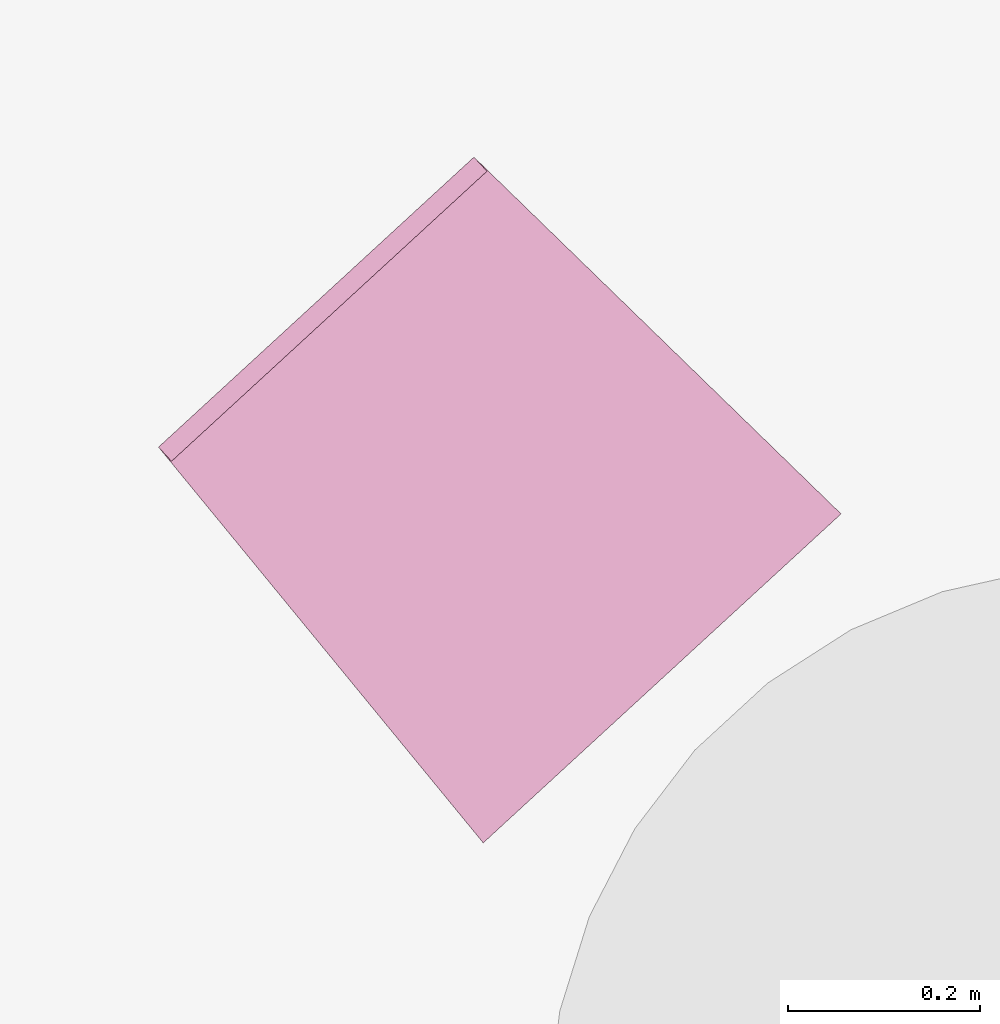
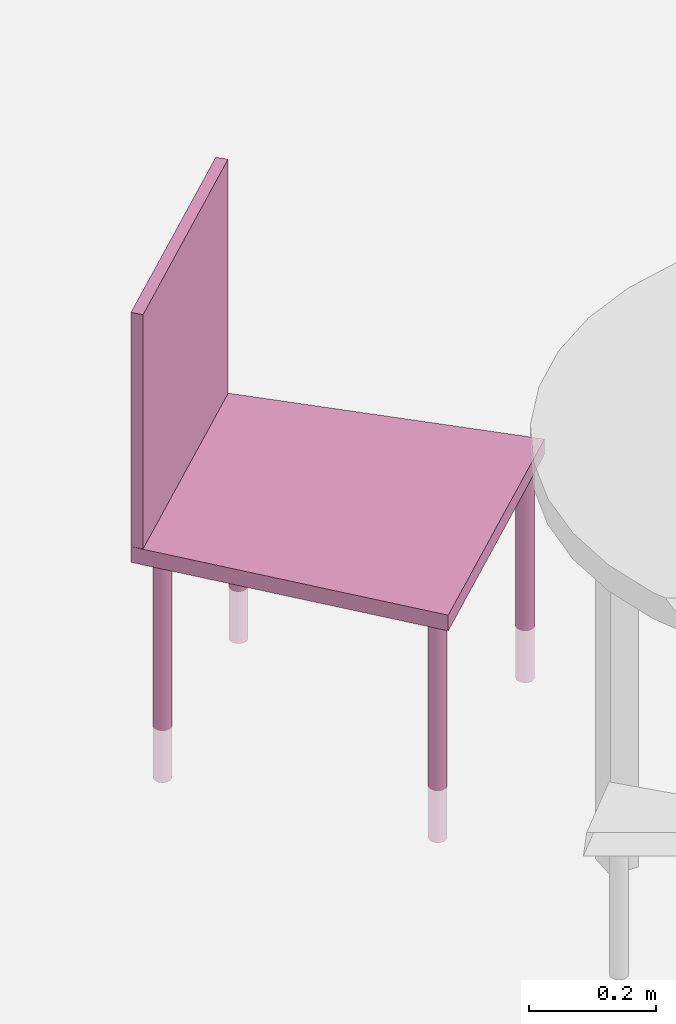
"""IFC4 building model written with IfcOpenShell, lengths in metres."""

from ifc_helpers import new_model, entity, si_unit, converted_unit, derived_unit, frame, origin, place, context, subcontext, project, spatial, faceted_brep, element, save


model = new_model("IFC4")

# Units and contexts
model_context = context("Model", 3, precision=1e-05, world=origin())
body_context = subcontext(model_context, "Body", "Model", "MODEL_VIEW")
ifc_project = project(units=[si_unit("LENGTHUNIT", "METRE"), si_unit("AREAUNIT", "SQUARE_METRE"), si_unit("VOLUMEUNIT", "CUBIC_METRE"), si_unit("MASSUNIT", "GRAM", prefix="KILO"), converted_unit("PLANEANGLEUNIT", "DEGREE", entity("IfcPlaneAngleMeasure", 0.0174532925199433), si_unit("PLANEANGLEUNIT", "RADIAN"), dimensions=[0, 0, 0, 0, 0, 0, 0]), derived_unit("THERMALTRANSMITTANCEUNIT", [(si_unit("POWERUNIT", "WATT"), 1), (si_unit("THERMODYNAMICTEMPERATUREUNIT", "KELVIN"), -1), (si_unit("LENGTHUNIT", "METRE"), -2)]), derived_unit("VOLUMETRICFLOWRATEUNIT", [(si_unit("LENGTHUNIT", "METRE"), 3), (converted_unit("TIMEUNIT", "hour", entity("IfcTimeMeasure", 3600.0), si_unit("TIMEUNIT", "SECOND"), dimensions=[0, 0, 1, 0, 0, 0, 0]), -1), (si_unit("LENGTHUNIT", "METRE"), -1)])], contexts=[model_context])

# Building, storeys
building_placement = place(None, origin())
building = spatial("IfcBuilding", under=ifc_project, at=building_placement, Name="HABITATGE PLURIFAMILIAR", CompositionType="ELEMENT")
storey_1_placement = place(building_placement, frame((0.0, 0.0, 12.27)))
storey_1 = spatial("IfcBuildingStorey", under=building, at=storey_1_placement, Name="PLANTA TERCERA", CompositionType="ELEMENT", Elevation=12.27)
storey_2_placement = place(storey_1_placement, frame((0.0, 0.0, 9.26)))
storey_2 = spatial("IfcBuildingStorey", under=storey_1, at=storey_2_placement, Name="NOU", CompositionType="PARTIAL")

# Furniture
furniture_placement = place(storey_2_placement, frame((423.593777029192, 24.244838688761, -9.36074913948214)))
element("IfcFurniture", 1, at=furniture_placement, inside=storey_2, Name="Cadira confident_P3", context=body_context, shape_type="Brep", body=[
    faceted_brep([(0.328242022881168, 0.024755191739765, 0.0), (0.33016572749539, 0.0230003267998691, 0.0), (0.332364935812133, 0.021606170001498, 0.0), (0.334772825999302, 0.0206150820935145, 0.0), (0.337316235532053, 0.0200571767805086, 0.0), (0.339917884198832, 0.0199494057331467, 0.0), (0.342498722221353, 0.0202950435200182, 0.0), (0.344980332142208, 0.0210835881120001, 0.0), (0.34728731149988, 0.0222910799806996, 0.0), (0.349349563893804, 0.0238808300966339, 0.0), (0.351104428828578, 0.0258045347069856, 0.0), (0.352498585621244, 0.0280037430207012, 0.0), (0.353489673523, 0.0304116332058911, 0.0), (0.354047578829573, 0.032955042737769, 0.0), (0.354155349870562, 0.0355566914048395, 0.0), (0.353809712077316, 0.0381375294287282, 0.0), (0.353021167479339, 0.0406191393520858, 0.0), (0.351813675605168, 0.0429261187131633, 0.0), (0.350223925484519, 0.0449883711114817, 0.0), (0.34830022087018, 0.0467432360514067, 0.0), (0.346101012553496, 0.0481373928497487, 0.0), (0.343693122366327, 0.0491284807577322, 0.0), (0.341149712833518, 0.0496863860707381, 0.0), (0.338548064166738, 0.0497941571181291, 0.0), (0.335967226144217, 0.0494485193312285, 0.0), (0.333485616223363, 0.0486599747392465, 0.0), (0.331178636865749, 0.0474524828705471, 0.0), (0.329116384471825, 0.0458627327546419, 0.0), (0.327361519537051, 0.0439390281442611, 0.0), (0.325967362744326, 0.0417398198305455, 0.0), (0.324976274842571, 0.0393319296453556, 0.0), (0.324418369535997, 0.0367885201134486, 0.0), (0.324310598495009, 0.0341868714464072, 0.0), (0.324656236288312, 0.0316060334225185, 0.0), (0.32544478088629, 0.0291244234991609, 0.0), (0.326652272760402, 0.0268174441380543, 0.0), (0.328242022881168, 0.024755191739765, 0.448281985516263), (0.326652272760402, 0.0268174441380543, 0.448281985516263), (0.32544478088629, 0.0291244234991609, 0.448281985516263), (0.324656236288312, 0.0316060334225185, 0.448281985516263), (0.324310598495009, 0.0341868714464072, 0.448281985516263), (0.324418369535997, 0.0367885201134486, 0.448281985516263), (0.324976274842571, 0.0393319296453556, 0.448281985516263), (0.325967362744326, 0.0417398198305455, 0.448281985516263), (0.327361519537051, 0.0439390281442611, 0.448281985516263), (0.329116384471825, 0.0458627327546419, 0.448281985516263), (0.331178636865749, 0.0474524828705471, 0.448281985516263), (0.333485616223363, 0.0486599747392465, 0.448281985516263), (0.335967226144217, 0.0494485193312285, 0.448281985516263), (0.338548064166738, 0.0497941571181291, 0.448281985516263), (0.341149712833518, 0.0496863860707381, 0.448281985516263), (0.343693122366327, 0.0491284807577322, 0.448281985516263), (0.346101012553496, 0.0481373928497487, 0.448281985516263), (0.34830022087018, 0.0467432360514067, 0.448281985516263), (0.350223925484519, 0.0449883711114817, 0.448281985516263), (0.351813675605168, 0.0429261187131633, 0.448281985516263), (0.353021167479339, 0.0406191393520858, 0.448281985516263), (0.353809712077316, 0.0381375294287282, 0.448281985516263), (0.354155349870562, 0.0355566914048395, 0.448281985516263), (0.354047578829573, 0.032955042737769, 0.448281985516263), (0.353489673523, 0.0304116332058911, 0.448281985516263), (0.352498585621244, 0.0280037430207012, 0.448281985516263), (0.351104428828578, 0.0258045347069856, 0.448281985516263), (0.349349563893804, 0.0238808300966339, 0.448281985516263), (0.34728731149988, 0.0222910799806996, 0.448281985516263), (0.344980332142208, 0.0210835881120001, 0.448281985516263), (0.342498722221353, 0.0202950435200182, 0.448281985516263), (0.339917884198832, 0.0199494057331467, 0.448281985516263), (0.337316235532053, 0.0200571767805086, 0.448281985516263), (0.334772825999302, 0.0206150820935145, 0.448281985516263), (0.332364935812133, 0.021606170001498, 0.448281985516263), (0.33016572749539, 0.0230003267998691, 0.448281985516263)], [[[0, 1, 2, 3, 4, 5, 6, 7, 8, 9, 10, 11, 12, 13, 14, 15, 16, 17, 18, 19, 20, 21, 22, 23, 24, 25, 26, 27, 28, 29, 30, 31, 32, 33, 34, 35]], [[36, 37, 38, 39, 40, 41, 42, 43, 44, 45, 46, 47, 48, 49, 50, 51, 52, 53, 54, 55, 56, 57, 58, 59, 60, 61, 62, 63, 64, 65, 66, 67, 68, 69, 70, 71]], [[35, 37, 36, 0]], [[34, 38, 37, 35]], [[33, 39, 38, 34]], [[32, 40, 39, 33]], [[31, 41, 40, 32]], [[30, 42, 41, 31]], [[29, 43, 42, 30]], [[28, 44, 43, 29]], [[27, 45, 44, 28]], [[26, 46, 45, 27]], [[25, 47, 46, 26]], [[24, 48, 47, 25]], [[23, 49, 48, 24]], [[22, 50, 49, 23]], [[21, 51, 50, 22]], [[20, 52, 51, 21]], [[19, 53, 52, 20]], [[18, 54, 53, 19]], [[17, 55, 54, 18]], [[16, 56, 55, 17]], [[15, 57, 56, 16]], [[14, 58, 57, 15]], [[13, 59, 58, 14]], [[12, 60, 59, 13]], [[11, 61, 60, 12]], [[10, 62, 61, 11]], [[9, 63, 62, 10]], [[8, 64, 63, 9]], [[7, 65, 64, 8]], [[6, 66, 65, 7]], [[5, 67, 66, 6]], [[4, 68, 67, 5]], [[3, 69, 68, 4]], [[2, 70, 69, 3]], [[1, 71, 70, 2]], [[0, 36, 71, 1]]], orient=[[False], [False], [False], [False], [False], [False], [False], [False], [False], [False], [False], [False], [False], [False], [False], [False], [False], [False], [False], [False], [False], [False], [False], [False], [False], [False], [False], [False], [False], [False], [False], [False], [False], [False], [False], [False], [False], [False]]),
    faceted_brep([(0.0356304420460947, 0.383868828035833, 0.0), (0.0375541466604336, 0.382113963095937, 0.0), (0.0397533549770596, 0.380719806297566, 0.0), (0.0421612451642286, 0.379728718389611, 0.0), (0.0447046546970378, 0.379170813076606, 0.0), (0.0473063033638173, 0.379063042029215, 0.0), (0.0498871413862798, 0.379408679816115, 0.0), (0.0523687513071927, 0.380197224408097, 0.0), (0.0546757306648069, 0.381404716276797, 0.0), (0.0567379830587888, 0.382994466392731, 0.0), (0.0584928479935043, 0.384918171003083, 0.0), (0.0598870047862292, 0.387117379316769, 0.0), (0.0608780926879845, 0.389525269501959, 0.0), (0.0614359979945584, 0.392068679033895, 0.0), (0.0615437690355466, 0.394670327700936, 0.0), (0.0611981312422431, 0.397251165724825, 0.0), (0.0604095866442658, 0.399732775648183, 0.0), (0.0592020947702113, 0.402039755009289, 0.0), (0.0576123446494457, 0.40410200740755, 0.0), (0.055688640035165, 0.405856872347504, 0.0), (0.0534894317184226, 0.407251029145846, 0.0), (0.0510815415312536, 0.4082421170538, 0.0), (0.0485381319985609, 0.408800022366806, 0.0), (0.0459364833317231, 0.408907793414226, 0.0), (0.0433556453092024, 0.408562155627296, 0.0), (0.0408740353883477, 0.407773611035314, 0.0), (0.0385670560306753, 0.406566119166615, 0.0), (0.0365048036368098, 0.40497636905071, 0.0), (0.034749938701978, 0.403052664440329, 0.0), (0.0333557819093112, 0.400853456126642, 0.0), (0.0323646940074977, 0.398445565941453, 0.0), (0.031806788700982, 0.395902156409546, 0.0), (0.0316990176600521, 0.393300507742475, 0.0), (0.0320446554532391, 0.390719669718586, 0.0), (0.0328332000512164, 0.388238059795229, 0.0), (0.0340406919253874, 0.385931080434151, 0.0), (0.0356304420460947, 0.383868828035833, 0.448281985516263), (0.0340406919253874, 0.385931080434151, 0.448281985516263), (0.0328332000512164, 0.388238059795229, 0.448281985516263), (0.0320446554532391, 0.390719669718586, 0.448281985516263), (0.0316990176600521, 0.393300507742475, 0.448281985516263), (0.031806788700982, 0.395902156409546, 0.448281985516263), (0.0323646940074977, 0.398445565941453, 0.448281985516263), (0.0333557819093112, 0.400853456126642, 0.448281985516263), (0.034749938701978, 0.403052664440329, 0.448281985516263), (0.0365048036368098, 0.40497636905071, 0.448281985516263), (0.0385670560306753, 0.406566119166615, 0.448281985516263), (0.0408740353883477, 0.407773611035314, 0.448281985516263), (0.0433556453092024, 0.408562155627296, 0.448281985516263), (0.0459364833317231, 0.408907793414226, 0.448281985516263), (0.0485381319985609, 0.408800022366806, 0.448281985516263), (0.0510815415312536, 0.4082421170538, 0.448281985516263), (0.0534894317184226, 0.407251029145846, 0.448281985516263), (0.055688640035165, 0.405856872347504, 0.448281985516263), (0.0576123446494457, 0.40410200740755, 0.448281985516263), (0.0592020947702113, 0.402039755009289, 0.448281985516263), (0.0604095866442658, 0.399732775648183, 0.448281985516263), (0.0611981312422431, 0.397251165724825, 0.448281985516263), (0.0615437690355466, 0.394670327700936, 0.448281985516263), (0.0614359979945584, 0.392068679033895, 0.448281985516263), (0.0608780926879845, 0.389525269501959, 0.448281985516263), (0.0598870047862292, 0.387117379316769, 0.448281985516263), (0.0584928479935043, 0.384918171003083, 0.448281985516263), (0.0567379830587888, 0.382994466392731, 0.448281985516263), (0.0546757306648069, 0.381404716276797, 0.448281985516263), (0.0523687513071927, 0.380197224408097, 0.448281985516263), (0.0498871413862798, 0.379408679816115, 0.448281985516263), (0.0473063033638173, 0.379063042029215, 0.448281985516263), (0.0447046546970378, 0.379170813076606, 0.448281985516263), (0.0421612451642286, 0.379728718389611, 0.448281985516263), (0.0397533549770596, 0.380719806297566, 0.448281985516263), (0.0375541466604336, 0.382113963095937, 0.448281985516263)], [[[0, 1, 2, 3, 4, 5, 6, 7, 8, 9, 10, 11, 12, 13, 14, 15, 16, 17, 18, 19, 20, 21, 22, 23, 24, 25, 26, 27, 28, 29, 30, 31, 32, 33, 34, 35]], [[36, 37, 38, 39, 40, 41, 42, 43, 44, 45, 46, 47, 48, 49, 50, 51, 52, 53, 54, 55, 56, 57, 58, 59, 60, 61, 62, 63, 64, 65, 66, 67, 68, 69, 70, 71]], [[35, 37, 36, 0]], [[34, 38, 37, 35]], [[33, 39, 38, 34]], [[32, 40, 39, 33]], [[31, 41, 40, 32]], [[30, 42, 41, 31]], [[29, 43, 42, 30]], [[28, 44, 43, 29]], [[27, 45, 44, 28]], [[26, 46, 45, 27]], [[25, 47, 46, 26]], [[24, 48, 47, 25]], [[23, 49, 48, 24]], [[22, 50, 49, 23]], [[21, 51, 50, 22]], [[20, 52, 51, 21]], [[19, 53, 52, 20]], [[18, 54, 53, 19]], [[17, 55, 54, 18]], [[16, 56, 55, 17]], [[15, 57, 56, 16]], [[14, 58, 57, 15]], [[13, 59, 58, 14]], [[12, 60, 59, 13]], [[11, 61, 60, 12]], [[10, 62, 61, 11]], [[9, 63, 62, 10]], [[8, 64, 63, 9]], [[7, 65, 64, 8]], [[6, 66, 65, 7]], [[5, 67, 66, 6]], [[4, 68, 67, 5]], [[3, 69, 68, 4]], [[2, 70, 69, 3]], [[1, 71, 70, 2]], [[0, 36, 71, 1]]], orient=[[False], [False], [False], [False], [False], [False], [False], [False], [False], [False], [False], [False], [False], [False], [False], [False], [False], [False], [False], [False], [False], [False], [False], [False], [False], [False], [False], [False], [False], [False], [False], [False], [False], [False], [False], [False], [False], [False]]),
    faceted_brep([(0.666878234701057, 0.336083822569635, 0.0), (0.668801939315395, 0.33432895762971, 0.0), (0.671001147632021, 0.332934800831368, 0.0), (0.67340903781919, 0.331943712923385, 0.0), (0.675952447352, 0.331385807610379, 0.0), (0.678554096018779, 0.331278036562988, 0.0), (0.6811349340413, 0.331623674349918, 0.0), (0.683616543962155, 0.332412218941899, 0.0), (0.685923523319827, 0.333619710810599, 0.0), (0.687985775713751, 0.335209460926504, 0.0), (0.689740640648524, 0.337133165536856, 0.0), (0.691134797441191, 0.339332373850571, 0.0), (0.692125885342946, 0.341740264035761, 0.0), (0.69268379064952, 0.344283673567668, 0.0), (0.692791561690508, 0.34688532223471, 0.0), (0.692445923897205, 0.349466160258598, 0.0), (0.691657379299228, 0.351947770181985, 0.0), (0.690449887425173, 0.354254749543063, 0.0), (0.688860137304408, 0.356317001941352, 0.0), (0.686936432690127, 0.358071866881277, 0.0), (0.684737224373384, 0.359466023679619, 0.0), (0.682329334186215, 0.360457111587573, 0.0), (0.679785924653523, 0.361015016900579, 0.0), (0.677184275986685, 0.361122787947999, 0.0), (0.674603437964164, 0.360777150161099, 0.0), (0.67212182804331, 0.359988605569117, 0.0), (0.669814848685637, 0.358781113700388, 0.0), (0.667752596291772, 0.357191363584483, 0.0), (0.66599773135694, 0.355267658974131, 0.0), (0.664603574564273, 0.353068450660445, 0.0), (0.663612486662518, 0.350660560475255, 0.0), (0.663054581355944, 0.348117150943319, 0.0), (0.662946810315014, 0.345515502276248, 0.0), (0.663292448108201, 0.34293466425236, 0.0), (0.664080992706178, 0.340453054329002, 0.0), (0.665288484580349, 0.338146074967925, 0.0), (0.666878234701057, 0.336083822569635, 0.448281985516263), (0.665288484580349, 0.338146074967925, 0.448281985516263), (0.664080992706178, 0.340453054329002, 0.448281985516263), (0.663292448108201, 0.34293466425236, 0.448281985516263), (0.662946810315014, 0.345515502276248, 0.448281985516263), (0.663054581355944, 0.348117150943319, 0.448281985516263), (0.663612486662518, 0.350660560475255, 0.448281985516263), (0.664603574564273, 0.353068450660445, 0.448281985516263), (0.66599773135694, 0.355267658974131, 0.448281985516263), (0.667752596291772, 0.357191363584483, 0.448281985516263), (0.669814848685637, 0.358781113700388, 0.448281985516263), (0.67212182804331, 0.359988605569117, 0.448281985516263), (0.674603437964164, 0.360777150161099, 0.448281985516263), (0.677184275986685, 0.361122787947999, 0.448281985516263), (0.679785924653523, 0.361015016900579, 0.448281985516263), (0.682329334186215, 0.360457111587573, 0.448281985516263), (0.684737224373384, 0.359466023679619, 0.448281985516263), (0.686936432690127, 0.358071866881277, 0.448281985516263), (0.688860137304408, 0.356317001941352, 0.448281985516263), (0.690449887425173, 0.354254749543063, 0.448281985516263), (0.691657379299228, 0.351947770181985, 0.448281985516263), (0.692445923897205, 0.349466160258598, 0.448281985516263), (0.692791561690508, 0.34688532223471, 0.448281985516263), (0.69268379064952, 0.344283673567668, 0.448281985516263), (0.692125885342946, 0.341740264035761, 0.448281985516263), (0.691134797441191, 0.339332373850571, 0.448281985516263), (0.689740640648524, 0.337133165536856, 0.448281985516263), (0.687985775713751, 0.335209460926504, 0.448281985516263), (0.685923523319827, 0.333619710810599, 0.448281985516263), (0.683616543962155, 0.332412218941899, 0.448281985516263), (0.6811349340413, 0.331623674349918, 0.448281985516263), (0.678554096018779, 0.331278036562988, 0.448281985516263), (0.675952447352, 0.331385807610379, 0.448281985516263), (0.67340903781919, 0.331943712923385, 0.448281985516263), (0.671001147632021, 0.332934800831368, 0.448281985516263), (0.668801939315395, 0.33432895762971, 0.448281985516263)], [[[0, 1, 2, 3, 4, 5, 6, 7, 8, 9, 10, 11, 12, 13, 14, 15, 16, 17, 18, 19, 20, 21, 22, 23, 24, 25, 26, 27, 28, 29, 30, 31, 32, 33, 34, 35]], [[36, 37, 38, 39, 40, 41, 42, 43, 44, 45, 46, 47, 48, 49, 50, 51, 52, 53, 54, 55, 56, 57, 58, 59, 60, 61, 62, 63, 64, 65, 66, 67, 68, 69, 70, 71]], [[35, 37, 36, 0]], [[34, 38, 37, 35]], [[33, 39, 38, 34]], [[32, 40, 39, 33]], [[31, 41, 40, 32]], [[30, 42, 41, 31]], [[29, 43, 42, 30]], [[28, 44, 43, 29]], [[27, 45, 44, 28]], [[26, 46, 45, 27]], [[25, 47, 46, 26]], [[24, 48, 47, 25]], [[23, 49, 48, 24]], [[22, 50, 49, 23]], [[21, 51, 50, 22]], [[20, 52, 51, 21]], [[19, 53, 52, 20]], [[18, 54, 53, 19]], [[17, 55, 54, 18]], [[16, 56, 55, 17]], [[15, 57, 56, 16]], [[14, 58, 57, 15]], [[13, 59, 58, 14]], [[12, 60, 59, 13]], [[11, 61, 60, 12]], [[10, 62, 61, 11]], [[9, 63, 62, 10]], [[8, 64, 63, 9]], [[7, 65, 64, 8]], [[6, 66, 65, 7]], [[5, 67, 66, 6]], [[4, 68, 67, 5]], [[3, 69, 68, 4]], [[2, 70, 69, 3]], [[1, 71, 70, 2]], [[0, 36, 71, 1]]], orient=[[False], [False], [False], [False], [False], [False], [False], [False], [False], [False], [False], [False], [False], [False], [False], [False], [False], [False], [False], [False], [False], [False], [False], [False], [False], [False], [False], [False], [False], [False], [False], [False], [False], [False], [False], [False], [False], [False]]),
    faceted_brep([(0.330096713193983, 0.654589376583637, 0.0), (0.332020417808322, 0.652834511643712, 0.0), (0.334219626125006, 0.65144035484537, 0.0), (0.336627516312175, 0.650449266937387, 0.0), (0.339170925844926, 0.649891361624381, 0.0), (0.341772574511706, 0.64978359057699, 0.0), (0.344353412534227, 0.65012922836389, 0.0), (0.346835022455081, 0.650917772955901, 0.0), (0.349142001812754, 0.652125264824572, 0.0), (0.351204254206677, 0.653715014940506, 0.0), (0.352959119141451, 0.655638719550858, 0.0), (0.354353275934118, 0.657837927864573, 0.0), (0.355344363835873, 0.660245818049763, 0.0), (0.355902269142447, 0.66278922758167, 0.0), (0.356010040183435, 0.665390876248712, 0.0), (0.35566440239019, 0.6679717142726, 0.0), (0.354875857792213, 0.670453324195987, 0.0), (0.3536683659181, 0.672760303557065, 0.0), (0.352078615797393, 0.674822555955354, 0.0), (0.350154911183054, 0.676577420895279, 0.0), (0.347955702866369, 0.67797157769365, 0.0), (0.3455478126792, 0.678962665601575, 0.0), (0.343004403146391, 0.67952057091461, 0.0), (0.340402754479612, 0.679628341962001, 0.0), (0.337821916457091, 0.679282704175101, 0.0), (0.335340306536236, 0.678494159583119, 0.0), (0.333033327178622, 0.677286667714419, 0.0), (0.330971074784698, 0.675696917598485, 0.0), (0.329216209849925, 0.673773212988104, 0.0), (0.3278220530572, 0.671574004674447, 0.0), (0.326830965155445, 0.669166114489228, 0.0), (0.326273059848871, 0.666622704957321, 0.0), (0.326165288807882, 0.66402105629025, 0.0), (0.326510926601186, 0.661440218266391, 0.0), (0.327299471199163, 0.658958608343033, 0.0), (0.328506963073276, 0.656651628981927, 0.0), (0.330096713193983, 0.654589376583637, 0.448281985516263), (0.328506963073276, 0.656651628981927, 0.448281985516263), (0.327299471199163, 0.658958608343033, 0.448281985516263), (0.326510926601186, 0.661440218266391, 0.448281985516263), (0.326165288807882, 0.66402105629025, 0.448281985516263), (0.326273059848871, 0.666622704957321, 0.448281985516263), (0.326830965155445, 0.669166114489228, 0.448281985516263), (0.3278220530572, 0.671574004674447, 0.448281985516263), (0.329216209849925, 0.673773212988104, 0.448281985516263), (0.330971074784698, 0.675696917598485, 0.448281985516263), (0.333033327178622, 0.677286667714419, 0.448281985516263), (0.335340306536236, 0.678494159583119, 0.448281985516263), (0.337821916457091, 0.679282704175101, 0.448281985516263), (0.340402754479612, 0.679628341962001, 0.448281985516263), (0.343004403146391, 0.67952057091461, 0.448281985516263), (0.3455478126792, 0.678962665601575, 0.448281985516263), (0.347955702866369, 0.67797157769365, 0.448281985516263), (0.350154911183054, 0.676577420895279, 0.448281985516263), (0.352078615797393, 0.674822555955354, 0.448281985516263), (0.3536683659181, 0.672760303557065, 0.448281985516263), (0.354875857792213, 0.670453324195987, 0.448281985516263), (0.35566440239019, 0.6679717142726, 0.448281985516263), (0.356010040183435, 0.665390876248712, 0.448281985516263), (0.355902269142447, 0.66278922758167, 0.448281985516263), (0.355344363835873, 0.660245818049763, 0.448281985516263), (0.354353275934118, 0.657837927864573, 0.448281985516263), (0.352959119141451, 0.655638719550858, 0.448281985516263), (0.351204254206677, 0.653715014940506, 0.448281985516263), (0.349142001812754, 0.652125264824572, 0.448281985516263), (0.346835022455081, 0.650917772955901, 0.448281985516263), (0.344353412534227, 0.65012922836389, 0.448281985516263), (0.341772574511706, 0.64978359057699, 0.448281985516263), (0.339170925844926, 0.649891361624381, 0.448281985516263), (0.336627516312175, 0.650449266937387, 0.448281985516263), (0.334219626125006, 0.65144035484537, 0.448281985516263), (0.332020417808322, 0.652834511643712, 0.448281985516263)], [[[0, 1, 2, 3, 4, 5, 6, 7, 8, 9, 10, 11, 12, 13, 14, 15, 16, 17, 18, 19, 20, 21, 22, 23, 24, 25, 26, 27, 28, 29, 30, 31, 32, 33, 34, 35]], [[36, 37, 38, 39, 40, 41, 42, 43, 44, 45, 46, 47, 48, 49, 50, 51, 52, 53, 54, 55, 56, 57, 58, 59, 60, 61, 62, 63, 64, 65, 66, 67, 68, 69, 70, 71]], [[35, 37, 36, 0]], [[34, 38, 37, 35]], [[33, 39, 38, 34]], [[32, 40, 39, 33]], [[31, 41, 40, 32]], [[30, 42, 41, 31]], [[29, 43, 42, 30]], [[28, 44, 43, 29]], [[27, 45, 44, 28]], [[26, 46, 45, 27]], [[25, 47, 46, 26]], [[24, 48, 47, 25]], [[23, 49, 48, 24]], [[22, 50, 49, 23]], [[21, 51, 50, 22]], [[20, 52, 51, 21]], [[19, 53, 52, 20]], [[18, 54, 53, 19]], [[17, 55, 54, 18]], [[16, 56, 55, 17]], [[15, 57, 56, 16]], [[14, 58, 57, 15]], [[13, 59, 58, 14]], [[12, 60, 59, 13]], [[11, 61, 60, 12]], [[10, 62, 61, 11]], [[9, 63, 62, 10]], [[8, 64, 63, 9]], [[7, 65, 64, 8]], [[6, 66, 65, 7]], [[5, 67, 66, 6]], [[4, 68, 67, 5]], [[3, 69, 68, 4]], [[2, 70, 69, 3]], [[1, 71, 70, 2]], [[0, 36, 71, 1]]], orient=[[False], [False], [False], [False], [False], [False], [False], [False], [False], [False], [False], [False], [False], [False], [False], [False], [False], [False], [False], [False], [False], [False], [False], [False], [False], [False], [False], [False], [False], [False], [False], [False], [False], [False], [False], [False], [False], [False]]),
    faceted_brep([(0.328708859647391, 0.714593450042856, 0.418281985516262), (0.0, 0.412391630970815, 0.418281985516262), (0.338384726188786, 0.0, 0.418281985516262), (0.711263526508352, 0.342809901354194, 0.418281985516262), (0.711263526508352, 0.342809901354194, 0.448281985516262), (0.338384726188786, 0.0, 0.448281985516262), (0.0, 0.412391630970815, 0.448281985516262), (0.328708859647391, 0.714593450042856, 0.448281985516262)], [[[0, 1, 2, 3]], [[4, 5, 6, 7]], [[3, 4, 7, 0]], [[2, 5, 4, 3]], [[1, 6, 5, 2]], [[0, 7, 6, 1]]], orient=[[False], [False], [False], [False], [False], [False]]),
    faceted_brep([(0.342244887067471, 0.699870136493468, 0.448281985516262), (0.32870885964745, 0.714593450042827, 0.448281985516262), (0.0, 0.412391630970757, 0.448281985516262), (0.0135360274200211, 0.397668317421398, 0.448281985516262), (0.0135360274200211, 0.397668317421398, 0.89828198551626), (0.0, 0.412391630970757, 0.89828198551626), (0.32870885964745, 0.714593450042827, 0.89828198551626), (0.342244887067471, 0.699870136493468, 0.89828198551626)], [[[0, 1, 2, 3]], [[4, 5, 6, 7]], [[3, 4, 7, 0]], [[2, 5, 4, 3]], [[1, 6, 5, 2]], [[0, 7, 6, 1]]], orient=[[False], [False], [False], [False], [False], [False]]),
])

save(model, "model.ifc")
